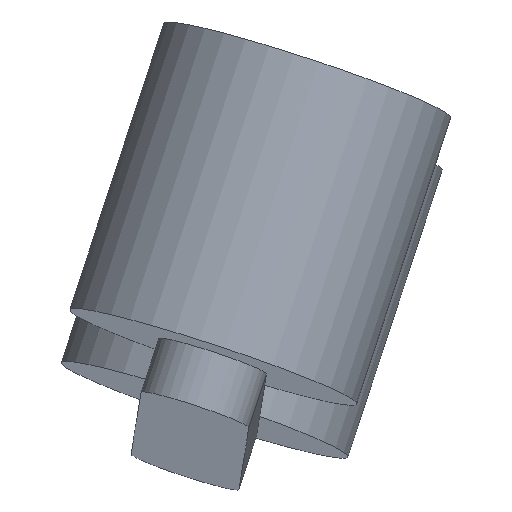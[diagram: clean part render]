
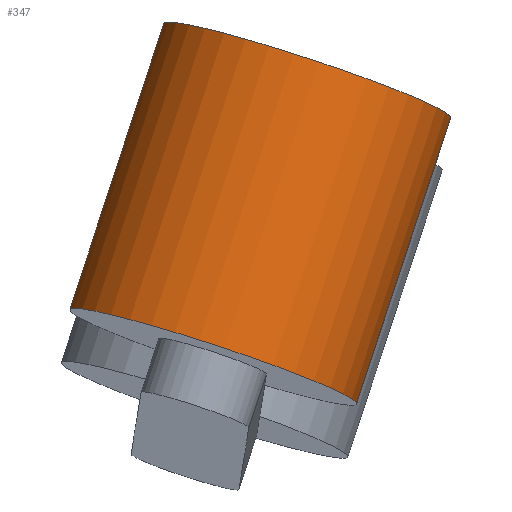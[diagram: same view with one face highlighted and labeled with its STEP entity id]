
A CAD part, left-side view. The second image highlights one B-rep face of the part: STEP entity #347.
In plain terms, the highlighted cylindrical face has radius 40 mm (diameter 80 mm), a full revolution.
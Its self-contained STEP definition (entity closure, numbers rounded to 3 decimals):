
#78=FACE_BOUND('',#146,.T.);
#104=FACE_OUTER_BOUND('',#145,.T.);
#145=EDGE_LOOP('',(#283));
#146=EDGE_LOOP('',(#284));
#166=CIRCLE('',#442,40.);
#168=CIRCLE('',#446,40.);
#192=VERTEX_POINT('',#643);
#194=VERTEX_POINT('',#649);
#222=EDGE_CURVE('',#192,#192,#166,.T.);
#224=EDGE_CURVE('',#194,#194,#168,.T.);
#283=ORIENTED_EDGE('',*,*,#224,.T.);
#284=ORIENTED_EDGE('',*,*,#222,.F.);
#293=CYLINDRICAL_SURFACE('',#447,40.);
#347=ADVANCED_FACE('',(#104,#78),#293,.T.);
#442=AXIS2_PLACEMENT_3D('',#644,#549,#550);
#446=AXIS2_PLACEMENT_3D('',#650,#557,#558);
#447=AXIS2_PLACEMENT_3D('',#651,#559,#560);
#549=DIRECTION('center_axis',(-1.,0.,0.));
#550=DIRECTION('ref_axis',(0.,0.,1.));
#557=DIRECTION('center_axis',(-1.,0.,0.));
#558=DIRECTION('ref_axis',(0.,0.,1.));
#559=DIRECTION('center_axis',(-1.,0.,0.));
#560=DIRECTION('ref_axis',(0.,0.,1.));
#643=CARTESIAN_POINT('',(-80.,0.,40.));
#644=CARTESIAN_POINT('Origin',(-80.,0.,0.));
#649=CARTESIAN_POINT('',(0.,0.,40.));
#650=CARTESIAN_POINT('Origin',(0.,0.,0.));
#651=CARTESIAN_POINT('Origin',(-40.,0.,0.));
